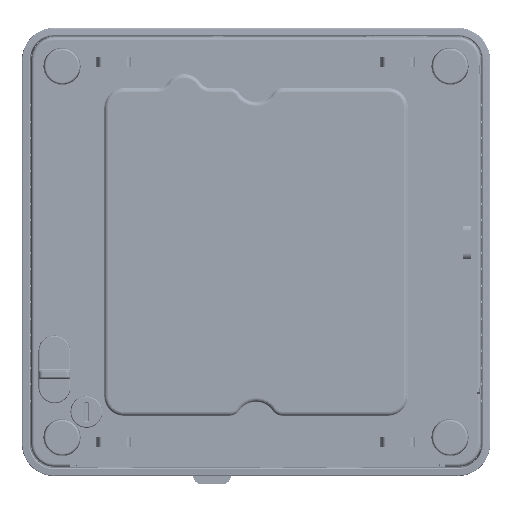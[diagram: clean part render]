
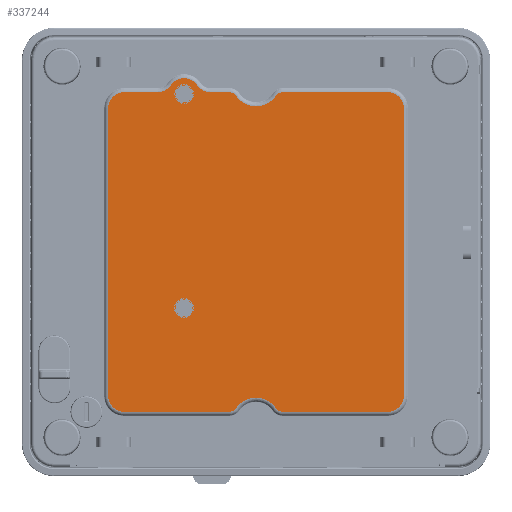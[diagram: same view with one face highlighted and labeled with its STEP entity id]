
A CAD part, front view. The second image highlights one B-rep face of the part: STEP entity #337244.
In plain terms, the highlighted planar face has unit normal (0, -1, 0).
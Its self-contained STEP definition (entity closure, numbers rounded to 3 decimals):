
#322621=CARTESIAN_POINT('',(-33.,3.05,-36.));
#322622=DIRECTION('',(0.,1.,0.));
#322623=DIRECTION('',(0.,0.,-1.));
#322624=AXIS2_PLACEMENT_3D('',#322621,#322622,#322623);
#322626=DIRECTION('',(0.,0.,1.));
#322627=VECTOR('',#322626,72.);
#322628=CARTESIAN_POINT('',(-36.937,3.05,-36.));
#322629=LINE('',#322628,#322627);
#322630=CARTESIAN_POINT('',(-33.,3.05,36.));
#322631=DIRECTION('',(0.,1.,0.));
#322632=DIRECTION('',(-1.,0.,0.));
#322633=AXIS2_PLACEMENT_3D('',#322630,#322631,#322632);
#322635=DIRECTION('',(1.,0.,0.));
#322636=VECTOR('',#322635,8.386);
#322637=CARTESIAN_POINT('',(-33.,3.05,39.937));
#322638=LINE('',#322637,#322636);
#322639=CARTESIAN_POINT('',(-24.614,3.05,44.));
#322640=DIRECTION('',(0.,-1.,0.));
#322641=DIRECTION('',(0.,0.,-1.));
#322642=AXIS2_PLACEMENT_3D('',#322639,#322640,#322641);
#322644=CARTESIAN_POINT('',(-18.,3.05,39.5));
#322645=DIRECTION('',(0.,1.,0.));
#322646=DIRECTION('',(-0.827,0.,0.563));
#322647=AXIS2_PLACEMENT_3D('',#322644,#322645,#322646);
#322649=CARTESIAN_POINT('',(-11.386,3.05,44.));
#322650=DIRECTION('',(0.,-1.,0.));
#322651=DIRECTION('',(-0.827,0.,-0.563));
#322652=AXIS2_PLACEMENT_3D('',#322649,#322650,#322651);
#322654=DIRECTION('',(1.,0.,0.));
#322655=VECTOR('',#322654,4.771);
#322656=CARTESIAN_POINT('',(-11.386,3.05,39.937));
#322657=LINE('',#322656,#322655);
#322658=CARTESIAN_POINT('',(-6.614,3.05,38.));
#322659=DIRECTION('',(0.,1.,0.));
#322660=DIRECTION('',(0.,0.,1.));
#322661=AXIS2_PLACEMENT_3D('',#322658,#322659,#322660);
#322663=CARTESIAN_POINT('',(0.,3.05,42.5));
#322664=DIRECTION('',(0.,-1.,0.));
#322665=DIRECTION('',(-0.827,0.,-0.562));
#322666=AXIS2_PLACEMENT_3D('',#322663,#322664,#322665);
#322668=CARTESIAN_POINT('',(6.614,3.05,38.));
#322669=DIRECTION('',(0.,1.,0.));
#322670=DIRECTION('',(-0.827,0.,0.562));
#322671=AXIS2_PLACEMENT_3D('',#322668,#322669,#322670);
#322673=DIRECTION('',(1.,0.,0.));
#322674=VECTOR('',#322673,26.386);
#322675=CARTESIAN_POINT('',(6.614,3.05,39.937));
#322676=LINE('',#322675,#322674);
#322677=CARTESIAN_POINT('',(33.,3.05,36.));
#322678=DIRECTION('',(0.,1.,0.));
#322679=DIRECTION('',(0.,0.,1.));
#322680=AXIS2_PLACEMENT_3D('',#322677,#322678,#322679);
#322682=DIRECTION('',(0.,0.,-1.));
#322683=VECTOR('',#322682,72.);
#322684=CARTESIAN_POINT('',(36.937,3.05,36.));
#322685=LINE('',#322684,#322683);
#322686=CARTESIAN_POINT('',(33.,3.05,-36.));
#322687=DIRECTION('',(0.,1.,0.));
#322688=DIRECTION('',(1.,0.,0.));
#322689=AXIS2_PLACEMENT_3D('',#322686,#322687,#322688);
#322691=DIRECTION('',(-1.,0.,0.));
#322692=VECTOR('',#322691,26.386);
#322693=CARTESIAN_POINT('',(33.,3.05,-39.937));
#322694=LINE('',#322693,#322692);
#322695=CARTESIAN_POINT('',(6.614,3.05,-38.));
#322696=DIRECTION('',(0.,1.,0.));
#322697=DIRECTION('',(0.,0.,-1.));
#322698=AXIS2_PLACEMENT_3D('',#322695,#322696,#322697);
#322700=CARTESIAN_POINT('',(0.,3.05,-42.5));
#322701=DIRECTION('',(0.,-1.,0.));
#322702=DIRECTION('',(0.827,0.,0.562));
#322703=AXIS2_PLACEMENT_3D('',#322700,#322701,#322702);
#322705=CARTESIAN_POINT('',(-6.614,3.05,-38.));
#322706=DIRECTION('',(0.,1.,0.));
#322707=DIRECTION('',(0.827,0.,-0.563));
#322708=AXIS2_PLACEMENT_3D('',#322705,#322706,#322707);
#322710=DIRECTION('',(-1.,0.,0.));
#322711=VECTOR('',#322710,26.386);
#322712=CARTESIAN_POINT('',(-6.614,3.05,-39.937));
#322713=LINE('',#322712,#322711);
#322823=CARTESIAN_POINT('',(-18.,3.05,39.5));
#322824=DIRECTION('',(0.,1.,0.));
#322825=DIRECTION('',(-1.,0.,0.));
#322826=AXIS2_PLACEMENT_3D('',#322823,#322824,#322825);
#323396=CARTESIAN_POINT('',(-18.,3.05,39.5));
#323397=DIRECTION('',(0.,1.,0.));
#323398=DIRECTION('',(1.,0.,0.));
#323399=AXIS2_PLACEMENT_3D('',#323396,#323397,#323398);
#323410=CARTESIAN_POINT('',(-18.,3.05,-14.));
#323411=DIRECTION('',(0.,1.,0.));
#323412=DIRECTION('',(-1.,0.,0.));
#323413=AXIS2_PLACEMENT_3D('',#323410,#323411,#323412);
#323424=CARTESIAN_POINT('',(-18.,3.05,-14.));
#323425=DIRECTION('',(0.,1.,0.));
#323426=DIRECTION('',(1.,0.,0.));
#323427=AXIS2_PLACEMENT_3D('',#323424,#323425,#323426);
#331749=CARTESIAN_POINT('',(-33.,3.05,-39.937));
#331750=CARTESIAN_POINT('',(-36.937,3.05,-36.));
#331751=VERTEX_POINT('',#331749);
#331752=VERTEX_POINT('',#331750);
#331753=CARTESIAN_POINT('',(-36.937,3.05,36.));
#331754=VERTEX_POINT('',#331753);
#331755=CARTESIAN_POINT('',(-33.,3.05,39.937));
#331756=VERTEX_POINT('',#331755);
#331757=CARTESIAN_POINT('',(-24.614,3.05,39.937));
#331758=VERTEX_POINT('',#331757);
#331759=CARTESIAN_POINT('',(-21.255,3.05,41.715));
#331760=VERTEX_POINT('',#331759);
#331761=CARTESIAN_POINT('',(-14.745,3.05,41.715));
#331762=VERTEX_POINT('',#331761);
#331763=CARTESIAN_POINT('',(-11.386,3.05,39.937));
#331764=VERTEX_POINT('',#331763);
#331765=CARTESIAN_POINT('',(-6.614,3.05,39.937));
#331766=VERTEX_POINT('',#331765);
#331767=CARTESIAN_POINT('',(-5.013,3.05,39.09));
#331768=VERTEX_POINT('',#331767);
#331769=CARTESIAN_POINT('',(5.013,3.05,39.09));
#331770=VERTEX_POINT('',#331769);
#331771=CARTESIAN_POINT('',(6.614,3.05,39.937));
#331772=VERTEX_POINT('',#331771);
#331773=CARTESIAN_POINT('',(33.,3.05,39.937));
#331774=VERTEX_POINT('',#331773);
#331775=CARTESIAN_POINT('',(36.937,3.05,36.));
#331776=VERTEX_POINT('',#331775);
#331777=CARTESIAN_POINT('',(36.937,3.05,-36.));
#331778=VERTEX_POINT('',#331777);
#331779=CARTESIAN_POINT('',(33.,3.05,-39.937));
#331780=VERTEX_POINT('',#331779);
#331781=CARTESIAN_POINT('',(6.614,3.05,-39.937));
#331782=VERTEX_POINT('',#331781);
#331783=CARTESIAN_POINT('',(5.013,3.05,-39.09));
#331784=VERTEX_POINT('',#331783);
#331785=CARTESIAN_POINT('',(-5.013,3.05,-39.09));
#331786=VERTEX_POINT('',#331785);
#331787=CARTESIAN_POINT('',(-6.614,3.05,-39.937));
#331788=VERTEX_POINT('',#331787);
#331861=CARTESIAN_POINT('',(-20.1,3.05,39.5));
#331862=CARTESIAN_POINT('',(-15.9,3.05,39.5));
#331863=VERTEX_POINT('',#331861);
#331864=VERTEX_POINT('',#331862);
#331865=CARTESIAN_POINT('',(-20.1,3.05,-14.));
#331866=CARTESIAN_POINT('',(-15.9,3.05,-14.));
#331867=VERTEX_POINT('',#331865);
#331868=VERTEX_POINT('',#331866);
#337186=CARTESIAN_POINT('',(0.,3.05,0.));
#337187=DIRECTION('',(0.,1.,0.));
#337188=DIRECTION('',(1.,0.,0.));
#337189=AXIS2_PLACEMENT_3D('',#337186,#337187,#337188);
#337190=PLANE('',#337189);
#337191=ORIENTED_EDGE('',*,*,#337169,.T.);
#337193=ORIENTED_EDGE('',*,*,#337192,.T.);
#337195=ORIENTED_EDGE('',*,*,#337194,.T.);
#337197=ORIENTED_EDGE('',*,*,#337196,.T.);
#337199=ORIENTED_EDGE('',*,*,#337198,.T.);
#337201=ORIENTED_EDGE('',*,*,#337200,.T.);
#337203=ORIENTED_EDGE('',*,*,#337202,.T.);
#337205=ORIENTED_EDGE('',*,*,#337204,.T.);
#337207=ORIENTED_EDGE('',*,*,#337206,.T.);
#337209=ORIENTED_EDGE('',*,*,#337208,.T.);
#337211=ORIENTED_EDGE('',*,*,#337210,.T.);
#337213=ORIENTED_EDGE('',*,*,#337212,.T.);
#337215=ORIENTED_EDGE('',*,*,#337214,.T.);
#337217=ORIENTED_EDGE('',*,*,#337216,.T.);
#337219=ORIENTED_EDGE('',*,*,#337218,.T.);
#337221=ORIENTED_EDGE('',*,*,#337220,.T.);
#337223=ORIENTED_EDGE('',*,*,#337222,.T.);
#337225=ORIENTED_EDGE('',*,*,#337224,.T.);
#337227=ORIENTED_EDGE('',*,*,#337226,.T.);
#337229=ORIENTED_EDGE('',*,*,#337228,.T.);
#337230=EDGE_LOOP('',(#337191,#337193,#337195,#337197,#337199,#337201,#337203,
#337205,#337207,#337209,#337211,#337213,#337215,#337217,#337219,#337221,#337223,
#337225,#337227,#337229));
#337231=FACE_OUTER_BOUND('',#337230,.F.);
#337233=ORIENTED_EDGE('',*,*,#337232,.F.);
#337235=ORIENTED_EDGE('',*,*,#337234,.F.);
#337236=EDGE_LOOP('',(#337233,#337235));
#337237=FACE_BOUND('',#337236,.F.);
#337239=ORIENTED_EDGE('',*,*,#337238,.F.);
#337241=ORIENTED_EDGE('',*,*,#337240,.F.);
#337242=EDGE_LOOP('',(#337239,#337241));
#337243=FACE_BOUND('',#337242,.F.);
#322625=CIRCLE('',#322624,3.937);
#322634=CIRCLE('',#322633,3.937);
#322643=CIRCLE('',#322642,4.063);
#322648=CIRCLE('',#322647,3.937);
#322653=CIRCLE('',#322652,4.063);
#322662=CIRCLE('',#322661,1.937);
#322667=CIRCLE('',#322666,6.063);
#322672=CIRCLE('',#322671,1.937);
#322681=CIRCLE('',#322680,3.937);
#322690=CIRCLE('',#322689,3.937);
#322699=CIRCLE('',#322698,1.937);
#322704=CIRCLE('',#322703,6.063);
#322709=CIRCLE('',#322708,1.937);
#322827=CIRCLE('',#322826,2.1);
#323400=CIRCLE('',#323399,2.1);
#323414=CIRCLE('',#323413,2.1);
#323428=CIRCLE('',#323427,2.1);
#337169=EDGE_CURVE('',#331751,#331752,#322625,.T.);
#337192=EDGE_CURVE('',#331752,#331754,#322629,.T.);
#337194=EDGE_CURVE('',#331754,#331756,#322634,.T.);
#337196=EDGE_CURVE('',#331756,#331758,#322638,.T.);
#337198=EDGE_CURVE('',#331758,#331760,#322643,.T.);
#337200=EDGE_CURVE('',#331760,#331762,#322648,.T.);
#337202=EDGE_CURVE('',#331762,#331764,#322653,.T.);
#337204=EDGE_CURVE('',#331764,#331766,#322657,.T.);
#337206=EDGE_CURVE('',#331766,#331768,#322662,.T.);
#337208=EDGE_CURVE('',#331768,#331770,#322667,.T.);
#337210=EDGE_CURVE('',#331770,#331772,#322672,.T.);
#337212=EDGE_CURVE('',#331772,#331774,#322676,.T.);
#337214=EDGE_CURVE('',#331774,#331776,#322681,.T.);
#337216=EDGE_CURVE('',#331776,#331778,#322685,.T.);
#337218=EDGE_CURVE('',#331778,#331780,#322690,.T.);
#337220=EDGE_CURVE('',#331780,#331782,#322694,.T.);
#337222=EDGE_CURVE('',#331782,#331784,#322699,.T.);
#337224=EDGE_CURVE('',#331784,#331786,#322704,.T.);
#337226=EDGE_CURVE('',#331786,#331788,#322709,.T.);
#337228=EDGE_CURVE('',#331788,#331751,#322713,.T.);
#337232=EDGE_CURVE('',#331863,#331864,#322827,.T.);
#337234=EDGE_CURVE('',#331864,#331863,#323400,.T.);
#337238=EDGE_CURVE('',#331867,#331868,#323414,.T.);
#337240=EDGE_CURVE('',#331868,#331867,#323428,.T.);
#337244=ADVANCED_FACE('',(#337231,#337237,#337243),#337190,.F.);
